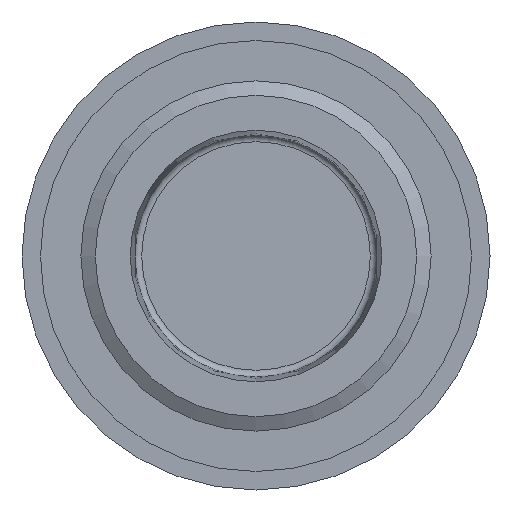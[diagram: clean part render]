
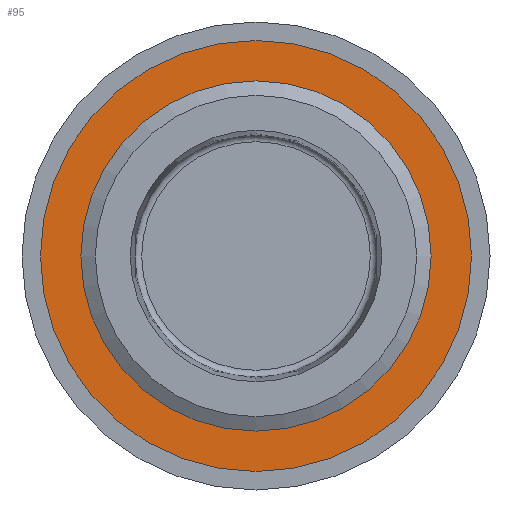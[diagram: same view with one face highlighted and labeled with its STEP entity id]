
A CAD part, front view. The second image highlights one B-rep face of the part: STEP entity #95.
In plain terms, the highlighted planar face has unit normal (0, -1, 0).
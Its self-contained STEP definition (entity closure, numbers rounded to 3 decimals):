
#95 = ADVANCED_FACE( '', ( #150, #151 ), #152, .F. );
#150 = FACE_BOUND( '', #208, .T. );
#151 = FACE_OUTER_BOUND( '', #209, .T. );
#152 = PLANE( '', #210 );
#208 = EDGE_LOOP( '', ( #334 ) );
#209 = EDGE_LOOP( '', ( #335 ) );
#210 = AXIS2_PLACEMENT_3D( '', #336, #337, #338 );
#334 = ORIENTED_EDGE( '', *, *, #374, .F. );
#335 = ORIENTED_EDGE( '', *, *, #375, .T. );
#336 = CARTESIAN_POINT( '', ( 12.895, 6.791, 0. ) );
#337 = DIRECTION( '', ( 0., 1., 0. ) );
#338 = DIRECTION( '', ( 0., 0., 1. ) );
#374 = EDGE_CURVE( '', #430, #430, #431, .T. );
#375 = EDGE_CURVE( '', #432, #432, #433, .T. );
#430 = VERTEX_POINT( '', #506 );
#431 = CIRCLE( '', #507, 10.478 );
#432 = VERTEX_POINT( '', #508 );
#433 = CIRCLE( '', #509, 12.895 );
#506 = CARTESIAN_POINT( '', ( 0., 6.791, -10.478 ) );
#507 = AXIS2_PLACEMENT_3D( '', #564, #565, #566 );
#508 = CARTESIAN_POINT( '', ( 0., 6.791, -12.895 ) );
#509 = AXIS2_PLACEMENT_3D( '', #567, #568, #569 );
#564 = CARTESIAN_POINT( '', ( 0., 6.791, 0. ) );
#565 = DIRECTION( '', ( 0., -1., 0. ) );
#566 = DIRECTION( '', ( 0., 0., -1. ) );
#567 = CARTESIAN_POINT( '', ( 0., 6.791, 0. ) );
#568 = DIRECTION( '', ( 0., -1., 0. ) );
#569 = DIRECTION( '', ( 0., 0., -1. ) );
